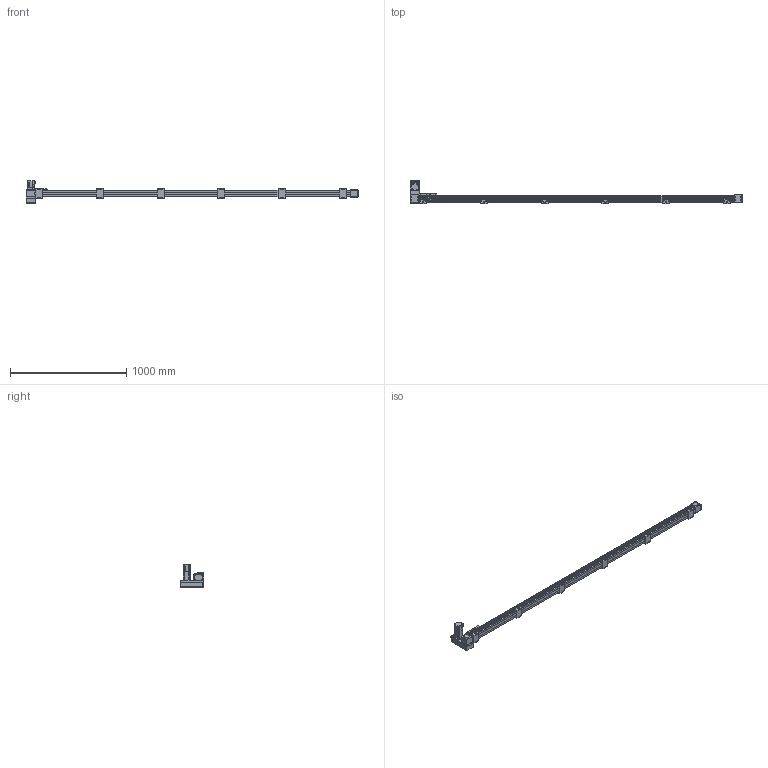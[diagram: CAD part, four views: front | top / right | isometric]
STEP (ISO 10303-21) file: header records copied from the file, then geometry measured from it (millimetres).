
FILE_DESCRIPTION(/* description */ ('STEP AP214'),/* implementation_level */ '2;1');
FILE_NAME(/* name */ 'SK60-P13-S2550-LU-T40-C1-N(0)',/* time_stamp */ '2023-04-06T04:48:49+02:00',/* author */ ('License CC BY-ND 4.0'),/* organization */ ('CADENAS'),/* preprocessor_version */ 'ST-DEVELOPER v19.3',/* originating_system */ 'PARTsolutions',/* authorisation */ ' ');
FILE_SCHEMA (('AUTOMOTIVE_DESIGN {1 0 10303 214 3 1 1}'));
Length unit declared in the file: millimetre
Products named in the file (10): SK60-P13-S2550-LU-T40-C1-N(0); PSC140-sensor; SK60-S450_seat; SK60-S450-BL-C1_slider; SK60_body3; SK60_body6; SK60-BL_body2; T40-p1; SK60-LU_fb; SK60-S2550-LU-C1_body
Assembly tree (20 placements, depth 2):
  SK60-P13-S2550-LU-T40-C1-N(0)
    PSC140-sensor  x3
    SK60-S450_seat  x6
    SK60-S450-BL-C1_slider
    SK60_body3  x3
    SK60_body6  x2
    SK60-BL_body2  x2
    T40-p1
    SK60-LU_fb
    SK60-S2550-LU-C1_body
Bounding box: 2855.5 x 201 x 189.7 mm (x, y, z)
Volume: 10928903.6 mm3; surface area: 1294803.5 mm2
Topology: 20 solids, 20 shells, 986 faces, 2440 edges, 1605 vertices
Faces by surface type: plane 620, cylinder 326, cone 38, torus 2
Full cylindrical faces by diameter (mm): 2.8 x3, 3.3 x4, 4 x2, 4.5 x30, 4.6 x3, 4.917 x32, 5 x6, 5.478 x4, 5.5 x35, 6.5 x12, 7 x2, 8 x4, 8.5 x4, 9.988 x4, 10 x24, 14 x1, 47 x3, 50 x2
Entity records: 18687 total; most frequent: DIRECTION 3192, CARTESIAN_POINT 3154, ORIENTED_EDGE 2940, EDGE_CURVE 1470, AXIS2_PLACEMENT_3D 1072, LINE 1048, VECTOR 1048, VERTEX_POINT 1034
